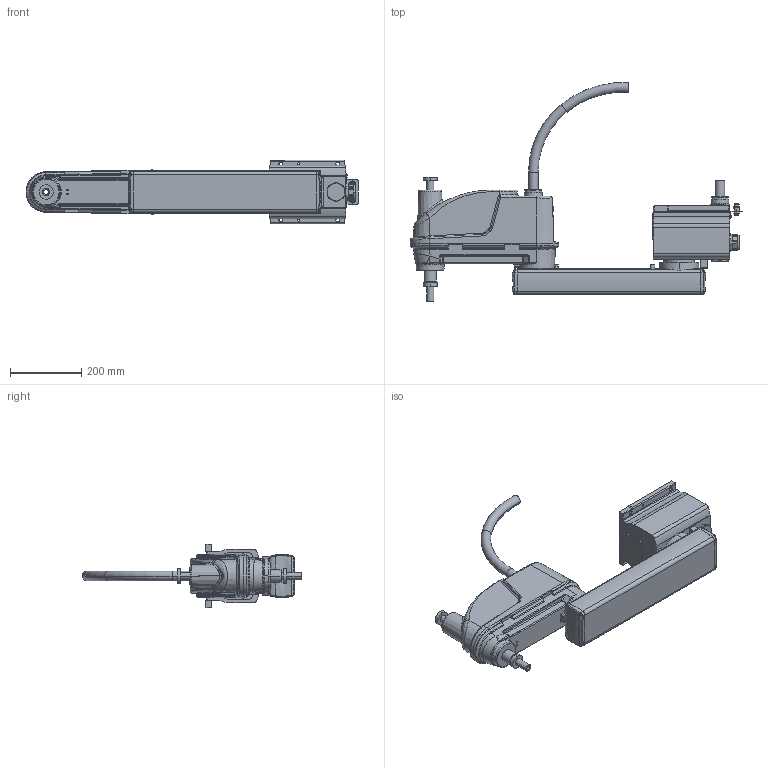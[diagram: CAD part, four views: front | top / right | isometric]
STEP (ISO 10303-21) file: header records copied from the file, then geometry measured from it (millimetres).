
FILE_DESCRIPTION((''),'2;1');
FILE_NAME('THL700-T_3D_ASM','2024-06-21T14:36:33',('15575'),(''),'CREO PARAMETRIC BY PTC INC, 2020454','CREO PARAMETRIC BY PTC INC, 2020454','');
FILE_SCHEMA(('AUTOMOTIVE_DESIGN { 1 0 10303 214 1 1 1 1 }'));
Products named in the file (6): THL567-T_BASE; THL700-T_1ST_ARM; THL700-T_BALL_SCREW; THL700-T_2ND_ARM; THL700-T_COVER; THL700-T_3D_ASM
Assembly tree (5 placements, depth 2):
  THL700-T_3D_ASM
    THL567-T_BASE
    THL700-T_1ST_ARM
    THL700-T_BALL_SCREW
    THL700-T_2ND_ARM
    THL700-T_COVER
Bounding box: 933.99 x 616.03 x 180 mm (x, y, z)
Volume: 7714593.7 mm3; surface area: 1250411.8 mm2
Topology: 5 solids, 17 shells, 1585 faces, 3838 edges, 2445 vertices
Faces by surface type: plane 648, cylinder 590, bspline 174, cone 79, torus 68, sphere 20, revolution 6
Entity records: 66708 total; most frequent: CARTESIAN_POINT 22471, ORIENTED_EDGE 7660, DIRECTION 7550, EDGE_CURVE 3830, AXIS2_PLACEMENT_3D 2827, VERTEX_POINT 2437, VECTOR 1872, LINE 1872
